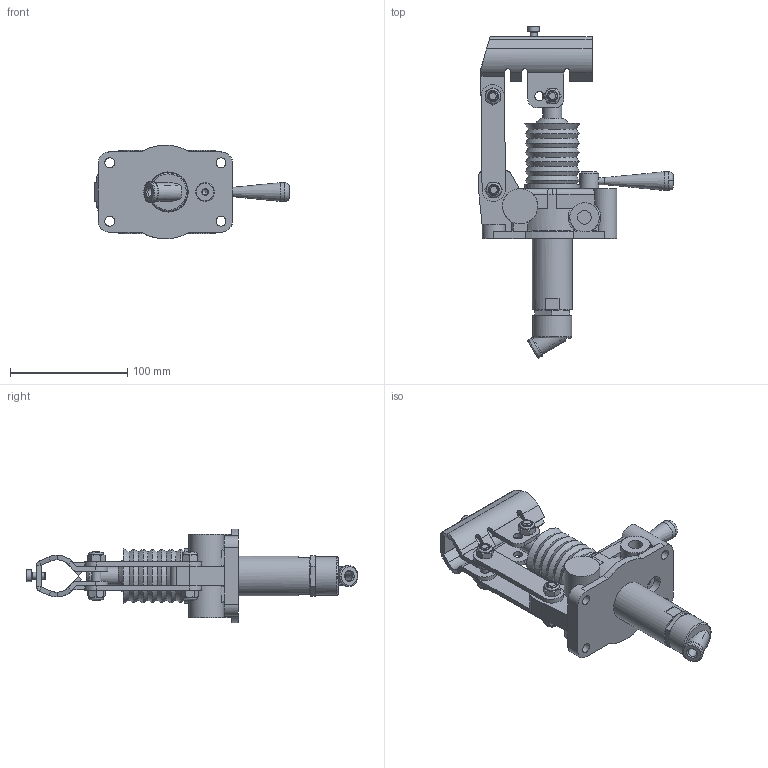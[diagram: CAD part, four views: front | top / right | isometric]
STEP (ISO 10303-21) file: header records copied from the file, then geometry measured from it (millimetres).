
FILE_DESCRIPTION(/* description */ ('Unknown'),/* implementation_level */ '2;1');
FILE_NAME(/* name */ 'PMI25S',/* time_stamp */ '2024-11-28T16:36:05+01:00',/* author */ ('Unknown'),/* organization */ ('Unknown'),/* preprocessor_version */ 'ST-DEVELOPER v19.4',/* originating_system */ 'Solid Edge',/* authorisation */ 'Unknown');
FILE_SCHEMA (('AUTOMOTIVE_DESIGN {1 0 10303 214 3 1 1}'));
Length unit declared in the file: millimetre
Products named in the file (1): PMI25S
Bounding box: 166.5 x 283.56 x 79.94 mm (x, y, z)
Volume: 444005 mm3; surface area: 130136.9 mm2
Topology: 6 solids, 6 shells, 531 faces, 1376 edges, 899 vertices
Faces by surface type: plane 240, cylinder 153, cone 81, torus 34, bspline 18, sphere 5
Full cylindrical faces by diameter (mm): 4.995 x1, 5 x3, 5.994 x2, 6 x1, 6.494 x1, 7.992 x12, 8.192 x13, 8.2 x1, 8.5 x4, 8.991 x1, 9.99 x2, 10 x1, 10.19 x1, 11.8 x2, 12.488 x6, 14.5 x4, 15.984 x3, 16 x3, 17.982 x3, 22.977 x2, 24.975 x3, 25 x2, 26.474 x2, 27.972 x1, 28.971 x1, 30 x2, 32.967 x1, 33.966 x1, 34 x1, 34.5 x1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
Entity records: 21676 total; most frequent: CARTESIAN_POINT 7327, ORIENTED_EDGE 2288, DIRECTION 2141, EDGE_CURVE 1144, AXIS2_PLACEMENT_3D 867, VERTEX_POINT 840, FACE_BOUND 790, EDGE_LOOP 789
